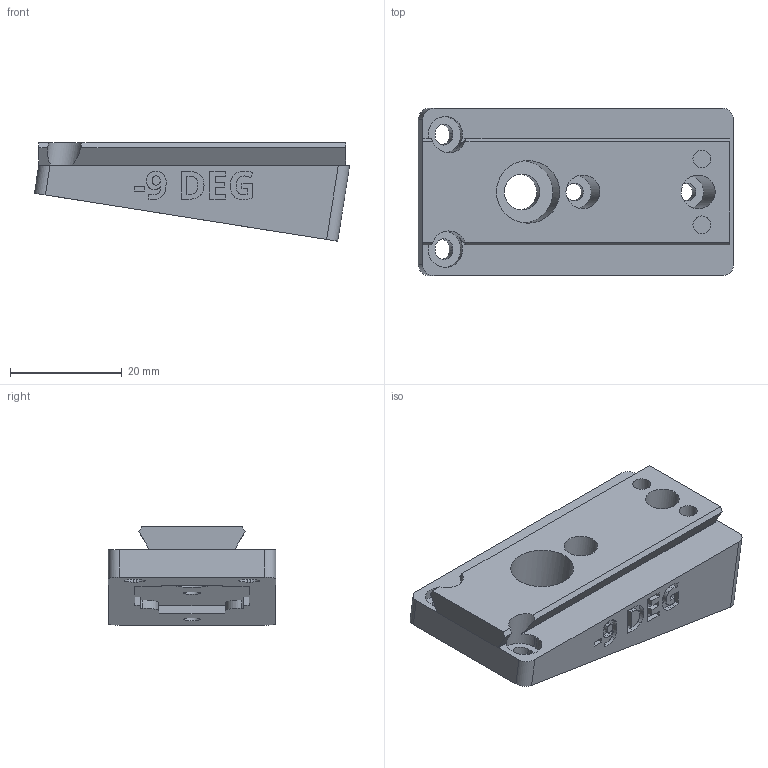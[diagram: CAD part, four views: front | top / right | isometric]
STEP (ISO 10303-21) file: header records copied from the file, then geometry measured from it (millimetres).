
FILE_DESCRIPTION(/* description */ ('STEP AP242 Edition 2','CAx-IF Rec.Pracs.---Representation and Presentation of Product Manufacturing Information (PMI)---4.0---2014-10-13','CAx-IF Rec.Pracs.---3D Tessellated Geometry---0.4---2014-09-14','2;1','CAx-IF Rec.Pracs.---User Defined Attributes---1.5---2016-08-15'),/* implementation_level */ '2;1');
FILE_NAME(/* name */ 'Camera Wedges - CAMERA MOUNTING WEDGE, NEG, -9 DEG',/* time_stamp */ '2026-07-08T20:37:15Z',/* author */ (''),/* organization */ (''),/* preprocessor_version */ 'ST-DEVELOPER v20',/* originating_system */ 'ONSHAPE BY PTC INC, 1.217',/* authorisation */ ' ');
FILE_SCHEMA (('AP242_MANAGED_MODEL_BASED_3D_ENGINEERING_MIM_LF { 1 0 10303 442 3 1 4 }'));
Length unit declared in the file: metre
Products named in the file (1): CAMERA MOUNTING WEDGE, NEG, -9 DEG
Bounding box: 56.47 x 30 x 17.63 mm (x, y, z)
Volume: 16535.3 mm3; surface area: 6929.4 mm2
Topology: 1 solids, 1 shells, 237 faces, 643 edges, 428 vertices
Faces by surface type: plane 125, bspline 70, cylinder 42
Full cylindrical faces by diameter (mm): 3.2 x4, 6 x2, 6.4 x1, 11.2 x1
Entity records: 7679 total; most frequent: CARTESIAN_POINT 2071, ORIENTED_EDGE 1270, DIRECTION 927, EDGE_CURVE 635, VERTEX_POINT 428, LINE 399, VECTOR 399, EDGE_LOOP 275
